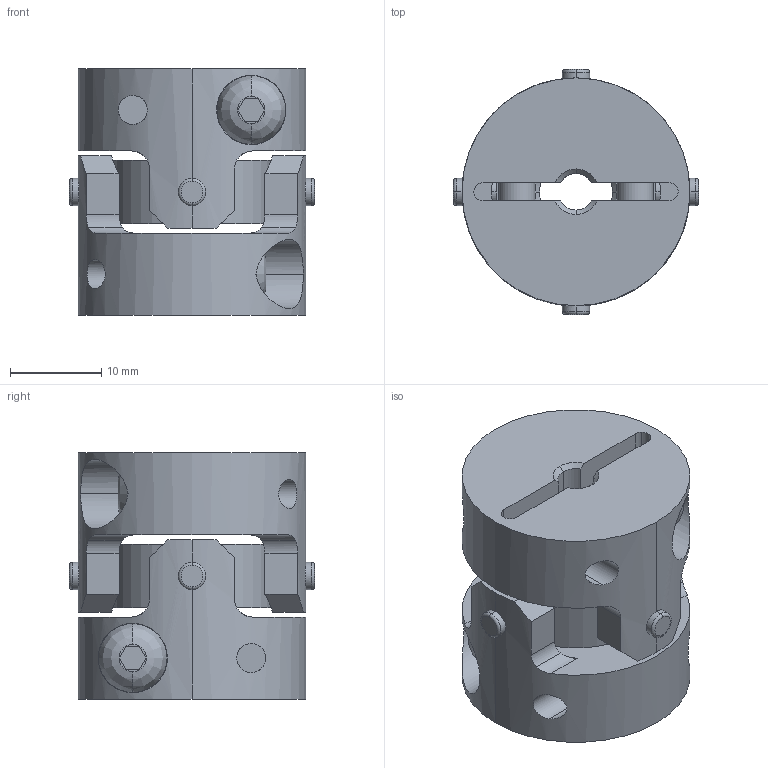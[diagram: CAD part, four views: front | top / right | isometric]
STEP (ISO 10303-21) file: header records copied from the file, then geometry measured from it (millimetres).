
FILE_DESCRIPTION((''),'2;1');
FILE_NAME('UA-25C-4×8.stp','2013-11-12T14:18:42',(''),(''),'AutoCAD STEP 2000i','AutoCAD 2000i',', , ');
FILE_SCHEMA(('CONFIG_CONTROL_DESIGN'));
Length unit declared in the file: millimetre
Products named in the file (6): UA-25C-5×5; 忣兜1; UA-2502-D05-1; BTN-M4; UA-2502-D05; UA25-SEN
Assembly tree (6 placements, depth 3):
  UA-25C-5×5
    忣兜1
    UA-2502-D05-1
      BTN-M4
    UA-2502-D05
      BTN-M4
    UA25-SEN
Bounding box: 26.89 x 26.89 x 27 mm (x, y, z)
Volume: 9311.8 mm3; surface area: 6485.4 mm2
Topology: 1 solids, 1 shells, 206 faces, 554 edges, 364 vertices
Faces by surface type: cylinder 96, plane 78, cone 16, bspline 8, torus 8
Entity records: 8291 total; most frequent: CARTESIAN_POINT 2975, ORIENTED_EDGE 1108, DIRECTION 1064, EDGE_CURVE 554, AXIS2_PLACEMENT_3D 409, VERTEX_POINT 364, VECTOR 246, LINE 246
